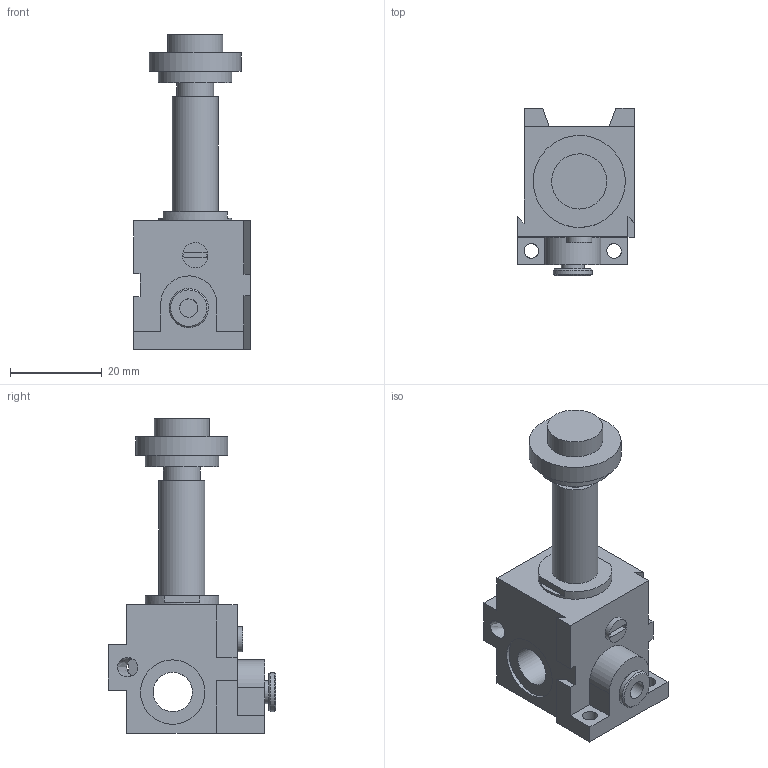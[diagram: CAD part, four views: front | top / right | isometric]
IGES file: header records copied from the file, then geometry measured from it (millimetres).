
Global section: file name: 345_M1; native system: Autodesk Inventor 2014; preprocessor: unknown; organization: Pneumax S.p.A.; date: 20161004.153119; units: millimetre
Bounding box: 25.4 x 36.4 x 68.5 mm (x, y, z)
Volume: 19111.6 mm3; surface area: 7986.3 mm2
Topology: 1 solids, 1 shells, 81 faces, 222 edges, 156 vertices
Faces by surface type: bspline 81
